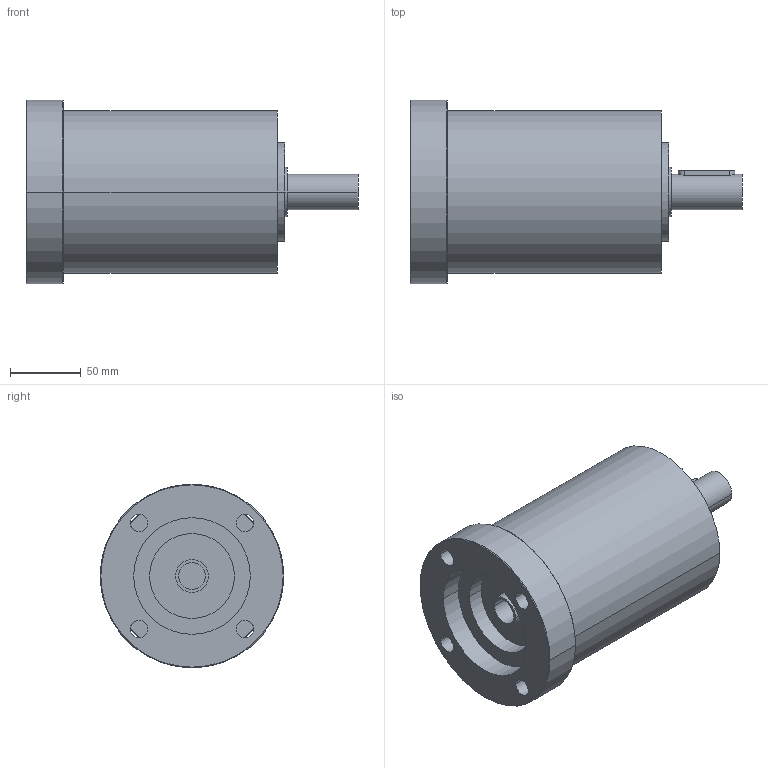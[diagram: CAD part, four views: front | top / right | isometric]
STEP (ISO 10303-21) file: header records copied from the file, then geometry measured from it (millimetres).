
FILE_DESCRIPTION(('CoCreate Modeling STEP Export'),'2;1');
FILE_NAME('GPR125_ig-9-12-16-20-28-35_25_B14_19_P21.stp','2014-08-26T14:10:50',(''),(''),'CoCreate Modeling STEP processor for AP214 (Solid Model)','CoCreate Modeling 16.00C 25-Feb-2009 (C) Parametric Technology GmbH','');
FILE_SCHEMA(('AUTOMOTIVE_DESIGN { 1 0 10303 214 1 1 1 1 }'));
Length unit declared in the file: millimetre
Products named in the file (2): GPR125_ig-9-12-16-20-28-35_25_B14_19_P21
Assembly tree (1 placements, depth 2):
  GPR125_ig-9-12-16-20-28-35_25_B14_19_P21
    GPR125_ig-9-12-16-20-28-35_25_B14_19_P21
Bounding box: 234.9 x 130 x 130 mm (x, y, z)
Volume: 1832425.8 mm3; surface area: 113006.5 mm2
Topology: 1 solids, 1 shells, 67 faces, 178 edges, 120 vertices
Faces by surface type: cylinder 38, plane 21, cone 8
Entity records: 1774 total; most frequent: ORIENTED_EDGE 352, CARTESIAN_POINT 330, DIRECTION 232, EDGE_CURVE 176, VERTEX_POINT 120, AXIS2_PLACEMENT_3D 90, EDGE_LOOP 84, FACE_OUTER_BOUND 67
